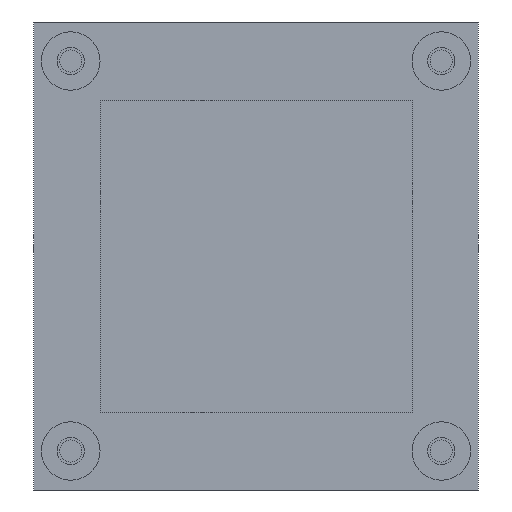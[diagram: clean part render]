
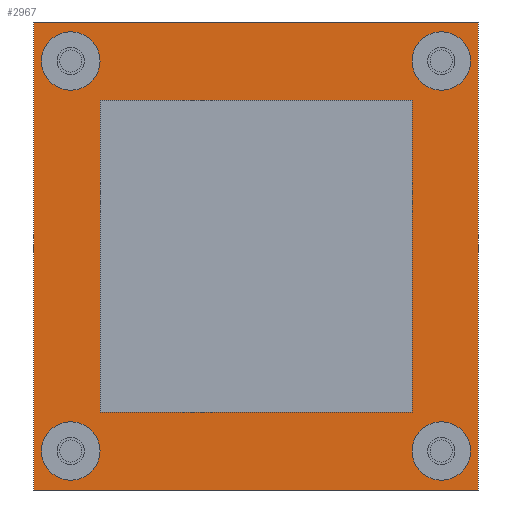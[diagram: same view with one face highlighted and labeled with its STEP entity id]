
A CAD part, front view. The second image highlights one B-rep face of the part: STEP entity #2967.
In plain terms, the highlighted planar face has unit normal (0, -1, 0).
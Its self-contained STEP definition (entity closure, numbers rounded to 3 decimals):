
#53 = FACE_BOUND ( 'NONE', #10640, .T. ) ;
#167 = DIRECTION ( 'NONE',  ( 0., 0., -1. ) ) ;
#644 = CIRCLE ( 'NONE', #12249, 3.81 ) ;
#734 = CIRCLE ( 'NONE', #8309, 3.81 ) ;
#1134 = CARTESIAN_POINT ( 'NONE',  ( 24.13, 0., -25.4 ) ) ;
#1323 = VERTEX_POINT ( 'NONE', #20190 ) ;
#1909 = ORIENTED_EDGE ( 'NONE', *, *, #15808, .F. ) ;
#2967 = ADVANCED_FACE ( 'NONE', ( #9573, #17251, #53, #4453, #17837 ), #5952, .F. ) ;
#3096 = DIRECTION ( 'NONE',  ( 0., -1., 0. ) ) ;
#3215 = EDGE_CURVE ( 'NONE', #16663, #6200, #16559, .T. ) ;
#3266 = DIRECTION ( 'NONE',  ( 0., 0., -1. ) ) ;
#3333 = VERTEX_POINT ( 'NONE', #4422 ) ;
#3647 = CARTESIAN_POINT ( 'NONE',  ( 24.13, 0., 29.21 ) ) ;
#3783 = CARTESIAN_POINT ( 'NONE',  ( 24.13, 0., -21.59 ) ) ;
#3936 = EDGE_CURVE ( 'NONE', #6200, #16663, #23747, .T. ) ;
#4330 = CARTESIAN_POINT ( 'NONE',  ( -28.956, 0., 30.48 ) ) ;
#4422 = CARTESIAN_POINT ( 'NONE',  ( -28.956, 0., -30.48 ) ) ;
#4453 = FACE_BOUND ( 'NONE', #8836, .T. ) ;
#4623 = DIRECTION ( 'NONE',  ( 0., -1., 0. ) ) ;
#4728 = AXIS2_PLACEMENT_3D ( 'NONE', #1134, #8774, #3266 ) ;
#4867 = DIRECTION ( 'NONE',  ( -1., 0., 0. ) ) ;
#4908 = CARTESIAN_POINT ( 'NONE',  ( -24.13, 0., -29.21 ) ) ;
#5193 = DIRECTION ( 'NONE',  ( 0., 0., -1. ) ) ;
#5232 = CARTESIAN_POINT ( 'NONE',  ( -24.13, 0., -25.4 ) ) ;
#5347 = AXIS2_PLACEMENT_3D ( 'NONE', #9399, #22327, #5193 ) ;
#5419 = CARTESIAN_POINT ( 'NONE',  ( -28.956, 0., -30.48 ) ) ;
#5573 = LINE ( 'NONE', #9420, #18190 ) ;
#5894 = CARTESIAN_POINT ( 'NONE',  ( -24.13, 0., -21.59 ) ) ;
#5952 = PLANE ( 'NONE',  #16147 ) ;
#6200 = VERTEX_POINT ( 'NONE', #3647 ) ;
#6487 = CARTESIAN_POINT ( 'NONE',  ( 24.13, 0., 25.4 ) ) ;
#6632 = AXIS2_PLACEMENT_3D ( 'NONE', #11447, #22967, #167 ) ;
#7290 = ORIENTED_EDGE ( 'NONE', *, *, #3215, .F. ) ;
#7784 = EDGE_LOOP ( 'NONE', ( #7290, #13464 ) ) ;
#7861 = ORIENTED_EDGE ( 'NONE', *, *, #14441, .F. ) ;
#7880 = EDGE_LOOP ( 'NONE', ( #1909, #12174 ) ) ;
#7943 = CARTESIAN_POINT ( 'NONE',  ( -28.956, 0., 30.48 ) ) ;
#8129 = EDGE_CURVE ( 'NONE', #18384, #17334, #11850, .T. ) ;
#8309 = AXIS2_PLACEMENT_3D ( 'NONE', #17741, #12200, #8432 ) ;
#8335 = VERTEX_POINT ( 'NONE', #10164 ) ;
#8343 = CARTESIAN_POINT ( 'NONE',  ( -28.956, 0., -30.48 ) ) ;
#8432 = DIRECTION ( 'NONE',  ( 0., 0., -1. ) ) ;
#8774 = DIRECTION ( 'NONE',  ( 0., -1., 0. ) ) ;
#8836 = EDGE_LOOP ( 'NONE', ( #14289, #11812 ) ) ;
#9399 = CARTESIAN_POINT ( 'NONE',  ( 24.13, 0., 25.4 ) ) ;
#9420 = CARTESIAN_POINT ( 'NONE',  ( 28.956, 0., -30.48 ) ) ;
#9573 = FACE_BOUND ( 'NONE', #7880, .T. ) ;
#9719 = CARTESIAN_POINT ( 'NONE',  ( 28.956, 0., -30.48 ) ) ;
#10164 = CARTESIAN_POINT ( 'NONE',  ( -24.13, 0., 29.21 ) ) ;
#10607 = AXIS2_PLACEMENT_3D ( 'NONE', #5232, #3096, #18252 ) ;
#10640 = EDGE_LOOP ( 'NONE', ( #16181, #22734 ) ) ;
#10866 = VERTEX_POINT ( 'NONE', #7943 ) ;
#11213 = CARTESIAN_POINT ( 'NONE',  ( 24.13, 0., 21.59 ) ) ;
#11392 = CIRCLE ( 'NONE', #14591, 3.81 ) ;
#11447 = CARTESIAN_POINT ( 'NONE',  ( -24.13, 0., -25.4 ) ) ;
#11762 = CARTESIAN_POINT ( 'NONE',  ( -28.956, 0., 30.48 ) ) ;
#11812 = ORIENTED_EDGE ( 'NONE', *, *, #22177, .F. ) ;
#11845 = VECTOR ( 'NONE', #24618, 1000. ) ;
#11850 = CIRCLE ( 'NONE', #6632, 3.81 ) ;
#12174 = ORIENTED_EDGE ( 'NONE', *, *, #21341, .F. ) ;
#12200 = DIRECTION ( 'NONE',  ( 0., -1., 0. ) ) ;
#12249 = AXIS2_PLACEMENT_3D ( 'NONE', #21357, #17631, #22988 ) ;
#12368 = LINE ( 'NONE', #8343, #16206 ) ;
#12901 = AXIS2_PLACEMENT_3D ( 'NONE', #6487, #4623, #21406 ) ;
#13155 = EDGE_LOOP ( 'NONE', ( #7861, #19414, #19184, #16852 ) ) ;
#13464 = ORIENTED_EDGE ( 'NONE', *, *, #3936, .F. ) ;
#14079 = DIRECTION ( 'NONE',  ( 0., 1., 0. ) ) ;
#14289 = ORIENTED_EDGE ( 'NONE', *, *, #20853, .F. ) ;
#14441 = EDGE_CURVE ( 'NONE', #3333, #10866, #22835, .T. ) ;
#14591 = AXIS2_PLACEMENT_3D ( 'NONE', #23093, #21325, #17605 ) ;
#14756 = VECTOR ( 'NONE', #23202, 1000. ) ;
#15492 = VERTEX_POINT ( 'NONE', #20914 ) ;
#15808 = EDGE_CURVE ( 'NONE', #15492, #8335, #734, .T. ) ;
#15848 = DIRECTION ( 'NONE',  ( 1., 0., 0. ) ) ;
#16147 = AXIS2_PLACEMENT_3D ( 'NONE', #4330, #14079, #15848 ) ;
#16181 = ORIENTED_EDGE ( 'NONE', *, *, #24149, .F. ) ;
#16206 = VECTOR ( 'NONE', #4867, 1000. ) ;
#16559 = CIRCLE ( 'NONE', #5347, 3.81 ) ;
#16663 = VERTEX_POINT ( 'NONE', #11213 ) ;
#16852 = ORIENTED_EDGE ( 'NONE', *, *, #20009, .F. ) ;
#16891 = VERTEX_POINT ( 'NONE', #21482 ) ;
#17251 = FACE_BOUND ( 'NONE', #7784, .T. ) ;
#17334 = VERTEX_POINT ( 'NONE', #4908 ) ;
#17605 = DIRECTION ( 'NONE',  ( 0., 0., -1. ) ) ;
#17631 = DIRECTION ( 'NONE',  ( 0., -1., 0. ) ) ;
#17741 = CARTESIAN_POINT ( 'NONE',  ( -24.13, 0., 25.4 ) ) ;
#17826 = CIRCLE ( 'NONE', #10607, 3.81 ) ;
#17837 = FACE_OUTER_BOUND ( 'NONE', #13155, .T. ) ;
#18190 = VECTOR ( 'NONE', #20566, 1000. ) ;
#18252 = DIRECTION ( 'NONE',  ( 0., 0., -1. ) ) ;
#18384 = VERTEX_POINT ( 'NONE', #5894 ) ;
#19184 = ORIENTED_EDGE ( 'NONE', *, *, #23794, .F. ) ;
#19306 = LINE ( 'NONE', #11762, #14756 ) ;
#19414 = ORIENTED_EDGE ( 'NONE', *, *, #20412, .F. ) ;
#20009 = EDGE_CURVE ( 'NONE', #10866, #16891, #19306, .T. ) ;
#20190 = CARTESIAN_POINT ( 'NONE',  ( 24.13, 0., -29.21 ) ) ;
#20412 = EDGE_CURVE ( 'NONE', #24812, #3333, #12368, .T. ) ;
#20566 = DIRECTION ( 'NONE',  ( 0., 0., -1. ) ) ;
#20853 = EDGE_CURVE ( 'NONE', #1323, #22026, #11392, .T. ) ;
#20914 = CARTESIAN_POINT ( 'NONE',  ( -24.13, 0., 21.59 ) ) ;
#21110 = CIRCLE ( 'NONE', #4728, 3.81 ) ;
#21325 = DIRECTION ( 'NONE',  ( 0., -1., 0. ) ) ;
#21341 = EDGE_CURVE ( 'NONE', #8335, #15492, #644, .T. ) ;
#21357 = CARTESIAN_POINT ( 'NONE',  ( -24.13, 0., 25.4 ) ) ;
#21406 = DIRECTION ( 'NONE',  ( 0., 0., -1. ) ) ;
#21482 = CARTESIAN_POINT ( 'NONE',  ( 28.956, 0., 30.48 ) ) ;
#22026 = VERTEX_POINT ( 'NONE', #3783 ) ;
#22177 = EDGE_CURVE ( 'NONE', #22026, #1323, #21110, .T. ) ;
#22327 = DIRECTION ( 'NONE',  ( 0., -1., 0. ) ) ;
#22734 = ORIENTED_EDGE ( 'NONE', *, *, #8129, .F. ) ;
#22835 = LINE ( 'NONE', #5419, #11845 ) ;
#22967 = DIRECTION ( 'NONE',  ( 0., -1., 0. ) ) ;
#22988 = DIRECTION ( 'NONE',  ( 0., 0., -1. ) ) ;
#23093 = CARTESIAN_POINT ( 'NONE',  ( 24.13, 0., -25.4 ) ) ;
#23202 = DIRECTION ( 'NONE',  ( 1., 0., 0. ) ) ;
#23747 = CIRCLE ( 'NONE', #12901, 3.81 ) ;
#23794 = EDGE_CURVE ( 'NONE', #16891, #24812, #5573, .T. ) ;
#24149 = EDGE_CURVE ( 'NONE', #17334, #18384, #17826, .T. ) ;
#24618 = DIRECTION ( 'NONE',  ( 0., 0., 1. ) ) ;
#24812 = VERTEX_POINT ( 'NONE', #9719 ) ;
